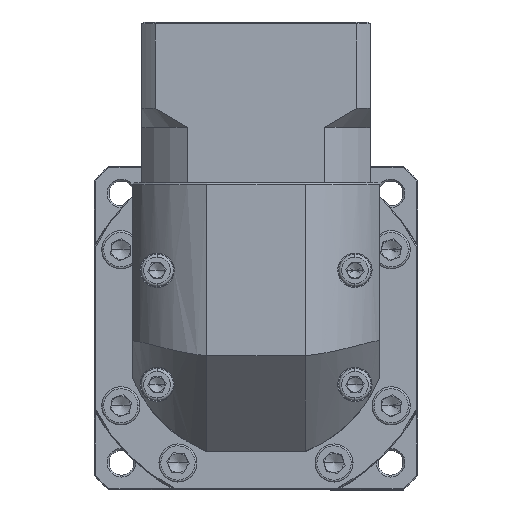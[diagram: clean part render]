
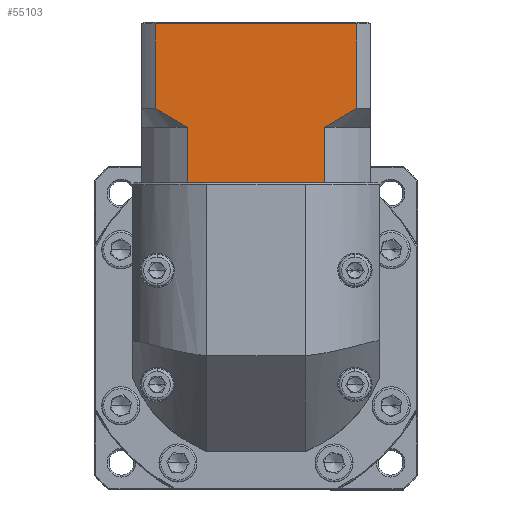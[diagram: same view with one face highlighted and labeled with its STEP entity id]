
A CAD part, top view. The second image highlights one B-rep face of the part: STEP entity #55103.
In plain terms, the highlighted planar face has unit normal (0, 0, 1).
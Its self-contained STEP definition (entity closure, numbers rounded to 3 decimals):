
#638 = CARTESIAN_POINT ( 'NONE',  ( -64.426, 70.274, 47.111 ) ) ;
#686 = DIRECTION ( 'NONE',  ( -1., 0., 0. ) ) ;
#2105 = EDGE_CURVE ( 'NONE', #120370, #121640, #43878, .T. ) ;
#2948 = CARTESIAN_POINT ( 'NONE',  ( -57.359, 74.373, 47.111 ) ) ;
#4280 = CARTESIAN_POINT ( 'NONE',  ( -112.454, 55.774, 47.111 ) ) ;
#6126 = CARTESIAN_POINT ( 'NONE',  ( -112.454, 97.974, 47.111 ) ) ;
#7400 = ORIENTED_EDGE ( 'NONE', *, *, #79958, .F. ) ;
#7444 = LINE ( 'NONE', #638, #50584 ) ;
#8209 = CARTESIAN_POINT ( 'NONE',  ( -112.454, 97.474, 47.111 ) ) ;
#10707 = LINE ( 'NONE', #4280, #131739 ) ;
#10977 = ORIENTED_EDGE ( 'NONE', *, *, #104483, .T. ) ;
#12746 = CARTESIAN_POINT ( 'NONE',  ( -61.544, 71.825, 47.111 ) ) ;
#13193 = CARTESIAN_POINT ( 'NONE',  ( -62.97, 71.024, 47.111 ) ) ;
#13478 = LINE ( 'NONE', #8209, #98059 ) ;
#14232 = CARTESIAN_POINT ( 'NONE',  ( -108.911, 97.474, 47.111 ) ) ;
#14449 = LINE ( 'NONE', #76335, #70839 ) ;
#14815 = VECTOR ( 'NONE', #68522, 1000. ) ;
#15775 = VERTEX_POINT ( 'NONE', #25266 ) ;
#20758 = ORIENTED_EDGE ( 'NONE', *, *, #39257, .T. ) ;
#21645 = EDGE_CURVE ( 'NONE', #15775, #117363, #83989, .T. ) ;
#23422 = CARTESIAN_POINT ( 'NONE',  ( -58.739, 73.499, 47.111 ) ) ;
#25266 = CARTESIAN_POINT ( 'NONE',  ( -65.417, 55.774, 47.111 ) ) ;
#26265 = VERTEX_POINT ( 'NONE', #110343 ) ;
#27076 = ORIENTED_EDGE ( 'NONE', *, *, #79517, .T. ) ;
#31903 = CARTESIAN_POINT ( 'NONE',  ( -108.911, 70.274, 47.111 ) ) ;
#32214 = B_SPLINE_CURVE_WITH_KNOTS ( 'NONE', 3,
 ( #77599, #13193, #12746, #23422, #2948, #55398 ),
 .UNSPECIFIED., .F., .F.,
 ( 4, 2, 4 ),
 ( 0.1, 0.104, 0.109 ),
 .UNSPECIFIED. ) ;
#33879 = VECTOR ( 'NONE', #107850, 1000. ) ;
#36091 = ORIENTED_EDGE ( 'NONE', *, *, #65268, .F. ) ;
#36296 = PLANE ( 'NONE',  #89900 ) ;
#39257 = EDGE_CURVE ( 'NONE', #74034, #121640, #13478, .T. ) ;
#43204 = VERTEX_POINT ( 'NONE', #57804 ) ;
#43792 = CARTESIAN_POINT ( 'NONE',  ( -100.482, 55.774, 47.111 ) ) ;
#43878 = LINE ( 'NONE', #31903, #33879 ) ;
#45280 = DIRECTION ( 'NONE',  ( 1., 0., 0. ) ) ;
#46982 = DIRECTION ( 'NONE',  ( 0., 1., 0. ) ) ;
#47627 = CARTESIAN_POINT ( 'NONE',  ( -108.911, 75.274, 47.111 ) ) ;
#47900 = DIRECTION ( 'NONE',  ( 0., 0., -1. ) ) ;
#48465 = ORIENTED_EDGE ( 'NONE', *, *, #136456, .F. ) ;
#48558 = CARTESIAN_POINT ( 'NONE',  ( -101.934, 71.022, 47.111 ) ) ;
#50584 = VECTOR ( 'NONE', #129095, 1000. ) ;
#55103 = ADVANCED_FACE ( 'NONE', ( #82182 ), #36296, .F. ) ;
#55398 = CARTESIAN_POINT ( 'NONE',  ( -55.996, 75.274, 47.111 ) ) ;
#55837 = CARTESIAN_POINT ( 'NONE',  ( -64.426, 55.774, 47.111 ) ) ;
#57804 = CARTESIAN_POINT ( 'NONE',  ( -100.482, 70.274, 47.111 ) ) ;
#58284 = CARTESIAN_POINT ( 'NONE',  ( -100.482, 70.274, 47.111 ) ) ;
#65268 = EDGE_CURVE ( 'NONE', #99740, #117363, #7444, .T. ) ;
#66165 = CARTESIAN_POINT ( 'NONE',  ( -112.454, 55.774, 47.111 ) ) ;
#66570 = B_SPLINE_CURVE_WITH_KNOTS ( 'NONE', 3,
 ( #47627, #100915, #121768, #78702, #48558, #58284 ),
 .UNSPECIFIED., .F., .F.,
 ( 4, 2, 4 ),
 ( 0.052, 0.057, 0.062 ),
 .UNSPECIFIED. ) ;
#67149 = ORIENTED_EDGE ( 'NONE', *, *, #120662, .T. ) ;
#68522 = DIRECTION ( 'NONE',  ( 0., -1., 0. ) ) ;
#70839 = VECTOR ( 'NONE', #45280, 1000. ) ;
#74034 = VERTEX_POINT ( 'NONE', #124587 ) ;
#76335 = CARTESIAN_POINT ( 'NONE',  ( -112.454, 55.774, 47.111 ) ) ;
#76418 = VERTEX_POINT ( 'NONE', #112057 ) ;
#76674 = ORIENTED_EDGE ( 'NONE', *, *, #2105, .F. ) ;
#77526 = CARTESIAN_POINT ( 'NONE',  ( -64.426, 70.274, 47.111 ) ) ;
#77531 = ORIENTED_EDGE ( 'NONE', *, *, #127000, .T. ) ;
#77599 = CARTESIAN_POINT ( 'NONE',  ( -64.426, 70.274, 47.111 ) ) ;
#78702 = CARTESIAN_POINT ( 'NONE',  ( -103.365, 71.826, 47.111 ) ) ;
#79517 = EDGE_CURVE ( 'NONE', #120370, #43204, #66570, .T. ) ;
#79958 = EDGE_CURVE ( 'NONE', #89059, #43204, #106525, .T. ) ;
#81683 = VECTOR ( 'NONE', #46982, 1000. ) ;
#82182 = FACE_OUTER_BOUND ( 'NONE', #128007, .T. ) ;
#82236 = DIRECTION ( 'NONE',  ( 1., 0., 0. ) ) ;
#83989 = LINE ( 'NONE', #66165, #123607 ) ;
#89059 = VERTEX_POINT ( 'NONE', #43792 ) ;
#89900 = AXIS2_PLACEMENT_3D ( 'NONE', #6126, #47900, #101171 ) ;
#89942 = CARTESIAN_POINT ( 'NONE',  ( -55.996, 70.274, 47.111 ) ) ;
#98059 = VECTOR ( 'NONE', #686, 1000. ) ;
#99740 = VERTEX_POINT ( 'NONE', #77526 ) ;
#100915 = CARTESIAN_POINT ( 'NONE',  ( -107.552, 74.375, 47.111 ) ) ;
#101171 = DIRECTION ( 'NONE',  ( 0., 1., 0. ) ) ;
#104483 = EDGE_CURVE ( 'NONE', #89059, #26265, #14449, .T. ) ;
#106525 = LINE ( 'NONE', #120189, #81683 ) ;
#106855 = ORIENTED_EDGE ( 'NONE', *, *, #21645, .T. ) ;
#107850 = DIRECTION ( 'NONE',  ( 0., 1., 0. ) ) ;
#110343 = CARTESIAN_POINT ( 'NONE',  ( -99.491, 55.774, 47.111 ) ) ;
#112057 = CARTESIAN_POINT ( 'NONE',  ( -55.996, 75.274, 47.111 ) ) ;
#117363 = VERTEX_POINT ( 'NONE', #55837 ) ;
#120189 = CARTESIAN_POINT ( 'NONE',  ( -100.482, 70.274, 47.111 ) ) ;
#120370 = VERTEX_POINT ( 'NONE', #124890 ) ;
#120662 = EDGE_CURVE ( 'NONE', #26265, #15775, #10707, .T. ) ;
#120862 = LINE ( 'NONE', #89942, #14815 ) ;
#121640 = VERTEX_POINT ( 'NONE', #14232 ) ;
#121768 = CARTESIAN_POINT ( 'NONE',  ( -106.173, 73.501, 47.111 ) ) ;
#123607 = VECTOR ( 'NONE', #130134, 1000. ) ;
#124587 = CARTESIAN_POINT ( 'NONE',  ( -55.996, 97.474, 47.111 ) ) ;
#124890 = CARTESIAN_POINT ( 'NONE',  ( -108.911, 75.274, 47.111 ) ) ;
#127000 = EDGE_CURVE ( 'NONE', #99740, #76418, #32214, .T. ) ;
#128007 = EDGE_LOOP ( 'NONE', ( #48465, #20758, #76674, #27076, #7400, #10977, #67149, #106855, #36091, #77531 ) ) ;
#129095 = DIRECTION ( 'NONE',  ( 0., -1., 0. ) ) ;
#130134 = DIRECTION ( 'NONE',  ( 1., 0., 0. ) ) ;
#131739 = VECTOR ( 'NONE', #82236, 1000. ) ;
#136456 = EDGE_CURVE ( 'NONE', #74034, #76418, #120862, .T. ) ;
